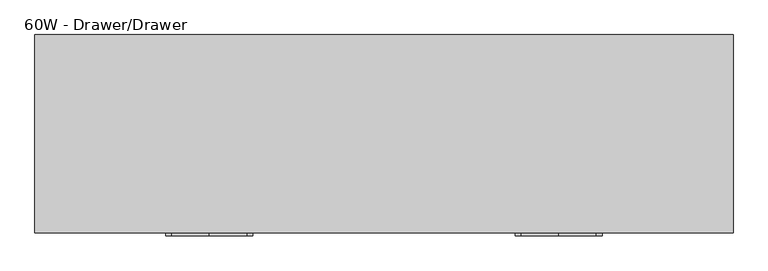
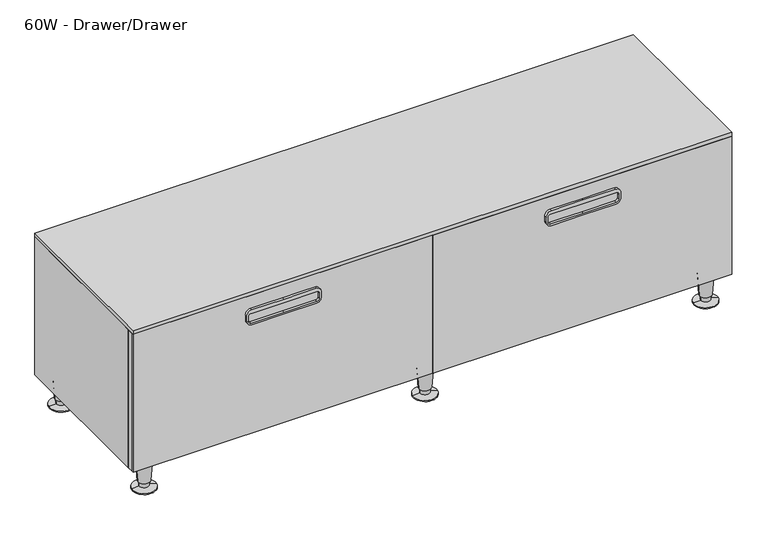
"""IFC4 building model written with IfcOpenShell, lengths in millimetres: furniture geometry, Steelcase - C Scape - Low Storage - 1 High - 60W and 72W : 60W - Drawer/Drawer."""

from ifc_helpers import new_model, si_unit, point, frame, frame_2d, origin, place, context, project, spatial, polyline, circle_curve, trimmed, segment, composite_curve, outline, extrude, faceted_brep, source, transform, mapped, element, save
from ifc_brep_helpers import plane_surface, cylinder_surface, revolved_surface, advanced_brep


def furniture_60w_drawer_drawer_cae58474(model_context):
    return source(origin(), model_context, "Body", "SolidModel", [
        extrude(outline(polyline([(447.0400097, 1217.93), (447.0400097, -305.435), (76.2, -305.435), (76.2, 1217.93), (447.0400097, 1217.93)]), holes=[polyline([(436.118, 1196.5917676), (92.7100024, 1196.5917676), (92.7100024, -283.4630912), (436.118, -283.4630912), (436.118, 1196.5917676)])]), frame((0.0, -426.7186111, 0.0), z_axis=(0.0, 1.0, 0.0), x_axis=(0.0, 0.0, 1.0)), (0.0, 0.0, 1.0), 14.3975487),
        faceted_brep([(-283.4630912, -412.3210624, 92.7100024), (434.0224874, -412.3210624, 92.7100024), (434.0224874, -9.525, 92.7100024), (-283.4630912, -9.525, 92.7100024), (479.1075126, -412.3210624, 92.7100024), (1196.5917676, -412.3210624, 92.7100024), (1196.5917676, -9.525, 92.7100024), (479.1075126, -9.525, 92.7100024), (-305.435, 0.0, 76.2), (1218.565, 0.0, 76.2), (1218.565, -412.3210624, 76.2), (-305.435, -412.3210624, 76.2), (-305.435, -412.3210624, 447.0400097), (-305.435, 0.0, 447.0400097), (1218.565, -412.3210624, 447.0400097), (1196.5917676, -412.3210624, 447.0400097), (-283.4630912, -412.3210624, 447.0400097), (1218.565, 0.0, 447.0400097), (-283.4630912, -9.525, 447.0400097), (434.0224874, -9.525, 447.0400097), (434.0224874, -415.2912402, 447.0400097), (447.6410976, -426.7186111, 447.0400097), (465.4889024, -426.7186111, 447.0400097), (479.1075126, -415.2912402, 447.0400097), (479.1075126, -9.525, 447.0400097), (1196.5917676, -9.525, 447.0400097), (434.0224874, -415.2912402, 92.7100024), (447.6410976, -426.7186111, 92.7100024), (465.4889024, -426.7186111, 92.7100024), (479.1075126, -415.2912402, 92.7100024)], [[[0, 1, 2, 3]], [[4, 5, 6, 7]], [[8, 9, 10, 11]], [[8, 11, 12, 13]], [[12, 11, 10, 14, 15, 5, 4, 1, 0, 16]], [[14, 10, 9, 17]], [[17, 9, 8, 13]], [[13, 12, 16, 18, 19, 20, 21, 22, 23, 24, 25, 15, 14, 17]], [[18, 16, 0, 3]], [[19, 18, 3, 2]], [[20, 19, 2, 1, 26]], [[21, 20, 26, 27]], [[23, 22, 28, 29]], [[24, 23, 29, 4, 7]], [[25, 24, 7, 6]], [[15, 25, 6, 5]], [[29, 28, 27, 26, 1, 4]], [[22, 21, 27, 28]]]),
        extrude(outline(composite_curve([segment(polyline([(412.7499879, 157.4804108), (412.7499879, 75.247655), (412.7499879, -6.9851007)]), True, "CONTINUOUS"), segment(trimmed(circle_curve(frame_2d((400.0499879, -6.9851007)), 12.7), [point((412.7499879, -6.9851007))], [point((400.0499879, -19.6851007))], False, "CARTESIAN"), True, "CONTINUOUS"), segment(polyline([(400.0499879, -19.6851007), (385.445017, -19.6851007)]), True, "CONTINUOUS"), segment(trimmed(circle_curve(frame_2d((385.445017, -6.9851007)), 12.7), [point((385.445017, -19.6851007))], [point((372.745017, -6.9851007))], False, "CARTESIAN"), True, "CONTINUOUS"), segment(polyline([(372.745017, -6.9851007), (372.745017, 75.247655), (372.745017, 157.4804108)]), True, "CONTINUOUS"), segment(trimmed(circle_curve(frame_2d((385.445017, 157.4804108)), 12.7), [point((372.745017, 157.4804108))], [point((385.445017, 170.1804108))], False, "CARTESIAN"), True, "CONTINUOUS"), segment(polyline([(385.445017, 170.1804108), (400.0499879, 170.1804108)]), True, "CONTINUOUS"), segment(trimmed(circle_curve(frame_2d((400.0499879, 157.4804108)), 12.7), [point((400.0499879, 170.1804108))], [point((412.7499879, 157.4804108))], False, "CARTESIAN"), True, "CONTINUOUS")], self_intersect=False), holes=[composite_curve([segment(polyline([(396.6210063, 165.3527985), (383.9209942, 165.3527985)]), True, "CONTINUOUS"), segment(trimmed(circle_curve(frame_2d((383.9209942, 159.0027985)), 6.35), [point((383.9209942, 165.3527985))], [point((377.5709942, 159.0027985))], True, "CARTESIAN"), True, "CONTINUOUS"), segment(polyline([(377.5709942, 159.0027985), (377.5709942, 75.247655), (377.5709942, -8.5074884)]), True, "CONTINUOUS"), segment(trimmed(circle_curve(frame_2d((383.9209942, -8.5074884)), 6.35), [point((377.5709942, -8.5074884))], [point((383.9209942, -14.8574884))], True, "CARTESIAN"), True, "CONTINUOUS"), segment(polyline([(383.9209942, -14.8574884), (396.6210063, -14.8574884)]), True, "CONTINUOUS"), segment(trimmed(circle_curve(frame_2d((396.6210063, -8.5074884)), 6.35), [point((396.6210063, -14.8574884))], [point((402.9710063, -8.5074884))], True, "CARTESIAN"), True, "CONTINUOUS"), segment(polyline([(402.9710063, -8.5074884), (402.9710063, 75.247655), (402.9710063, 159.0027985)]), True, "CONTINUOUS"), segment(trimmed(circle_curve(frame_2d((396.6210063, 159.0027985)), 6.35), [point((402.9710063, 159.0027985))], [point((396.6210063, 165.3527985))], True, "CARTESIAN"), True, "CONTINUOUS")], self_intersect=False)]), frame((0.0, -439.42, 0.0), z_axis=(0.0, 1.0, 0.0), x_axis=(0.0, 0.0, 1.0)), (0.0, 0.0, 1.0), 6.35),
        extrude(outline(polyline([(455.9303101, -426.7186111), (455.9303101, -433.07), (-305.435, -433.07), (-305.435, -426.7186111), (455.9303101, -426.7186111)])), frame((0.0, 0.0, 76.2), z_axis=(0.0, 0.0, 1.0), x_axis=(1.0, 0.0, 0.0)), (0.0, 0.0, 1.0), 370.8400097),
        advanced_brep(
        [(427.4539515, -29.9489775, 0.0), (485.6760485, -38.8569507, 0.0), (456.565, -34.4029641, 0.0), (427.4539515, -29.9489775, 2.5119506), (485.6760485, -38.8569507, 2.5119506), (444.802835, -32.6033544, 5.7545598), (468.327165, -36.2025738, 5.7545598), (444.1140655, -32.4979728, 19.05), (469.0159345, -36.3079555, 19.05), (441.6844786, -32.1262463, 19.05), (471.4455214, -36.6796819, 19.05), (437.7341305, -31.5218435, 76.2), (475.3958695, -37.2840847, 76.2), (456.565, -34.4029641, 76.2)],
        [
            (0, 1, circle_curve(frame((456.565, -34.4029641, 0.0), z_axis=(0.0, 0.0, -1.0), x_axis=(0.0, -1.0, 0.0)), 29.4498071)),
            (1, 2),
            (2, 0),
            (1, 0, circle_curve(frame((456.565, -34.4029641, 0.0), z_axis=(0.0, 0.0, -1.0), x_axis=(0.0, -1.0, 0.0)), 29.4498071)),
            (3, 4, circle_curve(frame((456.565, -34.4029641, 2.5119506), z_axis=(0.0, 0.0, -1.0), x_axis=(0.0, -1.0, 0.0)), 29.4498071)),
            (4, 1),
            (0, 3),
            (4, 3, circle_curve(frame((456.565, -34.4029641, 2.5119506), z_axis=(0.0, 0.0, -1.0), x_axis=(0.0, -1.0, 0.0)), 29.4498071)),
            (5, 6, circle_curve(frame((456.565, -34.4029641, 5.7545598), z_axis=(0.0, 0.0, -1.0), x_axis=(0.0, -1.0, 0.0)), 11.8990387)),
            (6, 4),
            (3, 5),
            (6, 5, circle_curve(frame((456.565, -34.4029641, 5.7545598), z_axis=(0.0, 0.0, -1.0), x_axis=(0.0, -1.0, 0.0)), 11.8990387)),
            (7, 8, circle_curve(frame((456.565, -34.4029641, 19.05), z_axis=(0.0, 0.0, -1.0), x_axis=(0.0, -1.0, 0.0)), 12.5958232)),
            (8, 6),
            (5, 7),
            (8, 7, circle_curve(frame((456.565, -34.4029641, 19.05), z_axis=(0.0, 0.0, -1.0), x_axis=(0.0, -1.0, 0.0)), 12.5958232)),
            (9, 10, circle_curve(frame((456.565, -34.4029641, 19.05), z_axis=(0.0, 0.0, -1.0), x_axis=(0.0, -1.0, 0.0)), 15.0536827)),
            (10, 8),
            (7, 9),
            (10, 9, circle_curve(frame((456.565, -34.4029641, 19.05), z_axis=(0.0, 0.0, -1.0), x_axis=(0.0, -1.0, 0.0)), 15.0536827)),
            (11, 12, circle_curve(frame((456.565, -34.4029641, 76.2), z_axis=(0.0, 0.0, -1.0), x_axis=(0.0, -1.0, 0.0)), 19.05)),
            (12, 10),
            (9, 11),
            (12, 11, circle_curve(frame((456.565, -34.4029641, 76.2), z_axis=(0.0, 0.0, -1.0), x_axis=(0.0, -1.0, 0.0)), 19.05)),
            (13, 12),
            (11, 13),
        ],
        [
            plane_surface(frame((456.565, -34.4029641, 0.0), z_axis=(0.0, 0.0, -1.0), x_axis=(0.0, -1.0, 0.0))),
            cylinder_surface(frame((456.565, -34.4029641, 25.4), z_axis=(0.0, 0.0, 1.0), x_axis=(0.0, -1.0, 0.0)), 29.4498071),
            revolved_surface(polyline([(456.565, -63.8527712, 2.5119506), (456.565, -46.3020028, 5.7545598)]), (456.565, -34.4029641, 25.4), (0.0, 0.0, 1.0)),
            revolved_surface(polyline([(456.565, -46.3020028, 5.7545598), (456.565, -46.9987873, 19.05)]), (456.565, -34.4029641, 25.4), (0.0, 0.0, 1.0)),
            plane_surface(frame((456.565, -34.4029641, 19.05), z_axis=(0.0, 0.0, -1.0), x_axis=(0.0, -1.0, 0.0))),
            revolved_surface(polyline([(456.565, -49.4566468, 19.05), (456.565, -53.4529641, 76.2)]), (456.565, -34.4029641, 25.4), (0.0, 0.0, 1.0)),
            plane_surface(frame((456.565, -34.4029641, 76.2), z_axis=(0.0, 0.0, 1.0), x_axis=(0.0, -1.0, 0.0))),
        ],
        [
            (0, [[1, 2, 3]]),
            (0, [[4, -3, -2]]),
            (1, [[5, 6, -1, 7]]),
            (1, [[8, -7, -4, -6]]),
            (2, [[9, 10, -5, 11]]),
            (2, [[12, -11, -8, -10]]),
            (3, [[13, 14, -9, 15]]),
            (3, [[16, -15, -12, -14]]),
            (4, [[17, 18, -13, 19]]),
            (4, [[20, -19, -16, -18]]),
            (5, [[21, 22, -17, 23]]),
            (5, [[24, -23, -20, -22]]),
            (6, [[25, -21, 26]]),
            (6, [[-26, -24, -25]]),
        ],
    ),
        advanced_brep(
        [(427.4539515, -395.5974102, 0.0), (485.6760485, -404.5053834, 0.0), (456.565, -400.0513968, 0.0), (427.4539515, -395.5974102, 2.5119506), (485.6760485, -404.5053834, 2.5119506), (444.802835, -398.2517871, 5.7545598), (468.327165, -401.8510065, 5.7545598), (444.1140655, -398.1464055, 19.05), (469.0159345, -401.9563882, 19.05), (441.6844786, -397.774679, 19.05), (471.4455214, -402.3281146, 19.05), (437.7341305, -397.1702762, 76.2), (475.3958695, -402.9325174, 76.2), (456.565, -400.0513968, 76.2)],
        [
            (0, 1, circle_curve(frame((456.565, -400.0513968, 0.0), z_axis=(0.0, 0.0, -1.0), x_axis=(0.0, -1.0, 0.0)), 29.4498071)),
            (1, 2),
            (2, 0),
            (1, 0, circle_curve(frame((456.565, -400.0513968, 0.0), z_axis=(0.0, 0.0, -1.0), x_axis=(0.0, -1.0, 0.0)), 29.4498071)),
            (3, 4, circle_curve(frame((456.565, -400.0513968, 2.5119506), z_axis=(0.0, 0.0, -1.0), x_axis=(0.0, -1.0, 0.0)), 29.4498071)),
            (4, 1),
            (0, 3),
            (4, 3, circle_curve(frame((456.565, -400.0513968, 2.5119506), z_axis=(0.0, 0.0, -1.0), x_axis=(0.0, -1.0, 0.0)), 29.4498071)),
            (5, 6, circle_curve(frame((456.565, -400.0513968, 5.7545598), z_axis=(0.0, 0.0, -1.0), x_axis=(0.0, -1.0, 0.0)), 11.8990387)),
            (6, 4),
            (3, 5),
            (6, 5, circle_curve(frame((456.565, -400.0513968, 5.7545598), z_axis=(0.0, 0.0, -1.0), x_axis=(0.0, -1.0, 0.0)), 11.8990387)),
            (7, 8, circle_curve(frame((456.565, -400.0513968, 19.05), z_axis=(0.0, 0.0, -1.0), x_axis=(0.0, -1.0, 0.0)), 12.5958232)),
            (8, 6),
            (5, 7),
            (8, 7, circle_curve(frame((456.565, -400.0513968, 19.05), z_axis=(0.0, 0.0, -1.0), x_axis=(0.0, -1.0, 0.0)), 12.5958232)),
            (9, 10, circle_curve(frame((456.565, -400.0513968, 19.05), z_axis=(0.0, 0.0, -1.0), x_axis=(0.0, -1.0, 0.0)), 15.0536827)),
            (10, 8),
            (7, 9),
            (10, 9, circle_curve(frame((456.565, -400.0513968, 19.05), z_axis=(0.0, 0.0, -1.0), x_axis=(0.0, -1.0, 0.0)), 15.0536827)),
            (11, 12, circle_curve(frame((456.565, -400.0513968, 76.2), z_axis=(0.0, 0.0, -1.0), x_axis=(0.0, -1.0, 0.0)), 19.05)),
            (12, 10),
            (9, 11),
            (12, 11, circle_curve(frame((456.565, -400.0513968, 76.2), z_axis=(0.0, 0.0, -1.0), x_axis=(0.0, -1.0, 0.0)), 19.05)),
            (13, 12),
            (11, 13),
        ],
        [
            plane_surface(frame((456.565, -400.0513968, 0.0), z_axis=(0.0, 0.0, -1.0), x_axis=(0.0, -1.0, 0.0))),
            cylinder_surface(frame((456.565, -400.0513968, 25.4), z_axis=(0.0, 0.0, 1.0), x_axis=(0.0, -1.0, 0.0)), 29.4498071),
            revolved_surface(polyline([(456.565, -429.5012039, 2.5119506), (456.565, -411.9504355, 5.7545598)]), (456.565, -400.0513968, 25.4), (0.0, 0.0, 1.0)),
            revolved_surface(polyline([(456.565, -411.9504355, 5.7545598), (456.565, -412.64722, 19.05)]), (456.565, -400.0513968, 25.4), (0.0, 0.0, 1.0)),
            plane_surface(frame((456.565, -400.0513968, 19.05), z_axis=(0.0, 0.0, -1.0), x_axis=(0.0, -1.0, 0.0))),
            revolved_surface(polyline([(456.565, -415.1050795, 19.05), (456.565, -419.1013968, 76.2)]), (456.565, -400.0513968, 25.4), (0.0, 0.0, 1.0)),
            plane_surface(frame((456.565, -400.0513968, 76.2), z_axis=(0.0, 0.0, 1.0), x_axis=(0.0, -1.0, 0.0))),
        ],
        [
            (0, [[1, 2, 3]]),
            (0, [[4, -3, -2]]),
            (1, [[5, 6, -1, 7]]),
            (1, [[8, -7, -4, -6]]),
            (2, [[9, 10, -5, 11]]),
            (2, [[12, -11, -8, -10]]),
            (3, [[13, 14, -9, 15]]),
            (3, [[16, -15, -12, -14]]),
            (4, [[17, 18, -13, 19]]),
            (4, [[20, -19, -16, -18]]),
            (5, [[21, 22, -17, 23]]),
            (5, [[24, -23, -20, -22]]),
            (6, [[25, -21, 26]]),
            (6, [[-26, -24, -25]]),
        ],
    ),
        extrude(outline(composite_curve([segment(trimmed(circle_curve(frame_2d((400.0499879, 755.3320892)), 12.7), [point((412.7499879, 755.3320892))], [point((400.0499879, 742.6320892))], False, "CARTESIAN"), True, "CONTINUOUS"), segment(polyline([(400.0499879, 742.6320892), (385.445017, 742.6320892)]), True, "CONTINUOUS"), segment(trimmed(circle_curve(frame_2d((385.445017, 755.3320892)), 12.7), [point((385.445017, 742.6320892))], [point((372.745017, 755.3320892))], False, "CARTESIAN"), True, "CONTINUOUS"), segment(polyline([(372.745017, 755.3320892), (372.745017, 837.564845), (372.745017, 919.7976007)]), True, "CONTINUOUS"), segment(trimmed(circle_curve(frame_2d((385.445017, 919.7976007)), 12.7), [point((372.745017, 919.7976007))], [point((385.445017, 932.4976007))], False, "CARTESIAN"), True, "CONTINUOUS"), segment(polyline([(385.445017, 932.4976007), (400.0499879, 932.4976007)]), True, "CONTINUOUS"), segment(trimmed(circle_curve(frame_2d((400.0499879, 919.7976007)), 12.7), [point((400.0499879, 932.4976007))], [point((412.7499879, 919.7976007))], False, "CARTESIAN"), True, "CONTINUOUS"), segment(polyline([(412.7499879, 919.7976007), (412.7499879, 837.564845), (412.7499879, 755.3320892)]), True, "CONTINUOUS")], self_intersect=False), holes=[composite_curve([segment(trimmed(circle_curve(frame_2d((396.6210063, 753.8097015)), 6.35), [point((396.6210063, 747.4597015))], [point((402.9710063, 753.8097015))], True, "CARTESIAN"), True, "CONTINUOUS"), segment(polyline([(402.9710063, 753.8097015), (402.9710063, 837.564845), (402.9710063, 921.3199884)]), True, "CONTINUOUS"), segment(trimmed(circle_curve(frame_2d((396.6210063, 921.3199884)), 6.35), [point((402.9710063, 921.3199884))], [point((396.6210063, 927.6699884))], True, "CARTESIAN"), True, "CONTINUOUS"), segment(polyline([(396.6210063, 927.6699884), (383.9209942, 927.6699884)]), True, "CONTINUOUS"), segment(trimmed(circle_curve(frame_2d((383.9209942, 921.3199884)), 6.35), [point((383.9209942, 927.6699884))], [point((377.5709942, 921.3199884))], True, "CARTESIAN"), True, "CONTINUOUS"), segment(polyline([(377.5709942, 921.3199884), (377.5709942, 837.564845), (377.5709942, 753.8097015)]), True, "CONTINUOUS"), segment(trimmed(circle_curve(frame_2d((383.9209942, 753.8097015)), 6.35), [point((377.5709942, 753.8097015))], [point((383.9209942, 747.4597015))], True, "CARTESIAN"), True, "CONTINUOUS"), segment(polyline([(383.9209942, 747.4597015), (396.6210063, 747.4597015)]), True, "CONTINUOUS")], self_intersect=False)]), frame((0.0, -439.42, 0.0), z_axis=(0.0, 1.0, 0.0), x_axis=(0.0, 0.0, 1.0)), (0.0, 0.0, 1.0), 6.35),
        advanced_brep(
        [(1171.2185874, -34.4029641, 76.2), (1190.0494568, -37.2840847, 76.2), (1152.3877179, -31.5218435, 76.2), (1186.0991088, -36.6796819, 19.05), (1156.3380659, -32.1262463, 19.05), (1183.6695219, -36.3079555, 19.05), (1158.7676529, -32.4979728, 19.05), (1182.9807524, -36.2025738, 5.7545598), (1159.4564224, -32.6033544, 5.7545598), (1200.3296359, -38.8569507, 2.5119506), (1142.1075389, -29.9489775, 2.5119506), (1200.3296359, -38.8569507, 0.0), (1142.1075389, -29.9489775, 0.0), (1171.2185874, -34.4029641, 0.0)],
        [
            (0, 1),
            (1, 2, circle_curve(frame((1171.2185874, -34.4029641, 76.2), z_axis=(0.0, 0.0, 1.0), x_axis=(0.0, -1.0, 0.0)), 19.05)),
            (2, 0),
            (2, 1, circle_curve(frame((1171.2185874, -34.4029641, 76.2), z_axis=(0.0, 0.0, 1.0), x_axis=(0.0, -1.0, 0.0)), 19.05)),
            (1, 3),
            (3, 4, circle_curve(frame((1171.2185874, -34.4029641, 19.05), z_axis=(0.0, 0.0, 1.0), x_axis=(0.0, -1.0, 0.0)), 15.0536827)),
            (4, 2),
            (4, 3, circle_curve(frame((1171.2185874, -34.4029641, 19.05), z_axis=(0.0, 0.0, 1.0), x_axis=(0.0, -1.0, 0.0)), 15.0536827)),
            (3, 5),
            (5, 6, circle_curve(frame((1171.2185874, -34.4029641, 19.05), z_axis=(0.0, 0.0, 1.0), x_axis=(0.0, -1.0, 0.0)), 12.5958232)),
            (6, 4),
            (6, 5, circle_curve(frame((1171.2185874, -34.4029641, 19.05), z_axis=(0.0, 0.0, 1.0), x_axis=(0.0, -1.0, 0.0)), 12.5958232)),
            (5, 7),
            (7, 8, circle_curve(frame((1171.2185874, -34.4029641, 5.7545598), z_axis=(0.0, 0.0, 1.0), x_axis=(0.0, -1.0, 0.0)), 11.8990387)),
            (8, 6),
            (8, 7, circle_curve(frame((1171.2185874, -34.4029641, 5.7545598), z_axis=(0.0, 0.0, 1.0), x_axis=(0.0, -1.0, 0.0)), 11.8990387)),
            (7, 9),
            (9, 10, circle_curve(frame((1171.2185874, -34.4029641, 2.5119506), z_axis=(0.0, 0.0, 1.0), x_axis=(0.0, -1.0, 0.0)), 29.4498071)),
            (10, 8),
            (10, 9, circle_curve(frame((1171.2185874, -34.4029641, 2.5119506), z_axis=(0.0, 0.0, 1.0), x_axis=(0.0, -1.0, 0.0)), 29.4498071)),
            (9, 11),
            (11, 12, circle_curve(frame((1171.2185874, -34.4029641, 0.0), z_axis=(0.0, 0.0, 1.0), x_axis=(0.0, -1.0, 0.0)), 29.4498071)),
            (12, 10),
            (12, 11, circle_curve(frame((1171.2185874, -34.4029641, 0.0), z_axis=(0.0, 0.0, 1.0), x_axis=(0.0, -1.0, 0.0)), 29.4498071)),
            (11, 13),
            (13, 12),
        ],
        [
            plane_surface(frame((1171.2185874, -34.4029641, 76.2), z_axis=(0.0, 0.0, 1.0), x_axis=(0.0, -1.0, 0.0))),
            revolved_surface(polyline([(1171.2185874, -49.4566468, 19.05), (1171.2185874, -53.4529641, 76.2)]), (1171.2185874, -34.4029641, 25.4), (0.0, 0.0, 1.0)),
            plane_surface(frame((1171.2185874, -34.4029641, 19.05), z_axis=(0.0, 0.0, -1.0), x_axis=(0.0, -1.0, 0.0))),
            revolved_surface(polyline([(1171.2185874, -46.3020028, 5.7545598), (1171.2185874, -46.9987873, 19.05)]), (1171.2185874, -34.4029641, 25.4), (0.0, 0.0, 1.0)),
            revolved_surface(polyline([(1171.2185874, -63.8527712, 2.5119506), (1171.2185874, -46.3020028, 5.7545598)]), (1171.2185874, -34.4029641, 25.4), (0.0, 0.0, 1.0)),
            cylinder_surface(frame((1171.2185874, -34.4029641, 25.4), z_axis=(0.0, 0.0, 1.0), x_axis=(0.0, -1.0, 0.0)), 29.4498071),
            plane_surface(frame((1171.2185874, -34.4029641, 0.0), z_axis=(0.0, 0.0, -1.0), x_axis=(0.0, -1.0, 0.0))),
        ],
        [
            (0, [[1, 2, 3]]),
            (0, [[-3, 4, -1]]),
            (1, [[-2, 5, 6, 7]]),
            (1, [[-4, -7, 8, -5]]),
            (2, [[-6, 9, 10, 11]]),
            (2, [[-8, -11, 12, -9]]),
            (3, [[-10, 13, 14, 15]]),
            (3, [[-12, -15, 16, -13]]),
            (4, [[-14, 17, 18, 19]]),
            (4, [[-16, -19, 20, -17]]),
            (5, [[-18, 21, 22, 23]]),
            (5, [[-20, -23, 24, -21]]),
            (6, [[-22, 25, 26]]),
            (6, [[-24, -26, -25]]),
        ],
    ),
        advanced_brep(
        [(1171.2185874, -400.0513968, 76.2), (1190.0494568, -402.9325174, 76.2), (1152.3877179, -397.1702762, 76.2), (1186.0991088, -402.3281146, 19.05), (1156.3380659, -397.774679, 19.05), (1183.6695219, -401.9563882, 19.05), (1158.7676529, -398.1464055, 19.05), (1182.9807524, -401.8510065, 5.7545598), (1159.4564224, -398.2517871, 5.7545598), (1200.3296359, -404.5053834, 2.5119506), (1142.1075389, -395.5974102, 2.5119506), (1200.3296359, -404.5053834, 0.0), (1142.1075389, -395.5974102, 0.0), (1171.2185874, -400.0513968, 0.0)],
        [
            (0, 1),
            (1, 2, circle_curve(frame((1171.2185874, -400.0513968, 76.2), z_axis=(0.0, 0.0, 1.0), x_axis=(0.0, -1.0, 0.0)), 19.05)),
            (2, 0),
            (2, 1, circle_curve(frame((1171.2185874, -400.0513968, 76.2), z_axis=(0.0, 0.0, 1.0), x_axis=(0.0, -1.0, 0.0)), 19.05)),
            (1, 3),
            (3, 4, circle_curve(frame((1171.2185874, -400.0513968, 19.05), z_axis=(0.0, 0.0, 1.0), x_axis=(0.0, -1.0, 0.0)), 15.0536827)),
            (4, 2),
            (4, 3, circle_curve(frame((1171.2185874, -400.0513968, 19.05), z_axis=(0.0, 0.0, 1.0), x_axis=(0.0, -1.0, 0.0)), 15.0536827)),
            (3, 5),
            (5, 6, circle_curve(frame((1171.2185874, -400.0513968, 19.05), z_axis=(0.0, 0.0, 1.0), x_axis=(0.0, -1.0, 0.0)), 12.5958232)),
            (6, 4),
            (6, 5, circle_curve(frame((1171.2185874, -400.0513968, 19.05), z_axis=(0.0, 0.0, 1.0), x_axis=(0.0, -1.0, 0.0)), 12.5958232)),
            (5, 7),
            (7, 8, circle_curve(frame((1171.2185874, -400.0513968, 5.7545598), z_axis=(0.0, 0.0, 1.0), x_axis=(0.0, -1.0, 0.0)), 11.8990387)),
            (8, 6),
            (8, 7, circle_curve(frame((1171.2185874, -400.0513968, 5.7545598), z_axis=(0.0, 0.0, 1.0), x_axis=(0.0, -1.0, 0.0)), 11.8990387)),
            (7, 9),
            (9, 10, circle_curve(frame((1171.2185874, -400.0513968, 2.5119506), z_axis=(0.0, 0.0, 1.0), x_axis=(0.0, -1.0, 0.0)), 29.4498071)),
            (10, 8),
            (10, 9, circle_curve(frame((1171.2185874, -400.0513968, 2.5119506), z_axis=(0.0, 0.0, 1.0), x_axis=(0.0, -1.0, 0.0)), 29.4498071)),
            (9, 11),
            (11, 12, circle_curve(frame((1171.2185874, -400.0513968, 0.0), z_axis=(0.0, 0.0, 1.0), x_axis=(0.0, -1.0, 0.0)), 29.4498071)),
            (12, 10),
            (12, 11, circle_curve(frame((1171.2185874, -400.0513968, 0.0), z_axis=(0.0, 0.0, 1.0), x_axis=(0.0, -1.0, 0.0)), 29.4498071)),
            (11, 13),
            (13, 12),
        ],
        [
            plane_surface(frame((1171.2185874, -400.0513968, 76.2), z_axis=(0.0, 0.0, 1.0), x_axis=(0.0, -1.0, 0.0))),
            revolved_surface(polyline([(1171.2185874, -415.1050795, 19.05), (1171.2185874, -419.1013968, 76.2)]), (1171.2185874, -400.0513968, 25.4), (0.0, 0.0, 1.0)),
            plane_surface(frame((1171.2185874, -400.0513968, 19.05), z_axis=(0.0, 0.0, -1.0), x_axis=(0.0, -1.0, 0.0))),
            revolved_surface(polyline([(1171.2185874, -411.9504355, 5.7545598), (1171.2185874, -412.64722, 19.05)]), (1171.2185874, -400.0513968, 25.4), (0.0, 0.0, 1.0)),
            revolved_surface(polyline([(1171.2185874, -429.5012039, 2.5119506), (1171.2185874, -411.9504355, 5.7545598)]), (1171.2185874, -400.0513968, 25.4), (0.0, 0.0, 1.0)),
            cylinder_surface(frame((1171.2185874, -400.0513968, 25.4), z_axis=(0.0, 0.0, 1.0), x_axis=(0.0, -1.0, 0.0)), 29.4498071),
            plane_surface(frame((1171.2185874, -400.0513968, 0.0), z_axis=(0.0, 0.0, -1.0), x_axis=(0.0, -1.0, 0.0))),
        ],
        [
            (0, [[1, 2, 3]]),
            (0, [[-3, 4, -1]]),
            (1, [[-2, 5, 6, 7]]),
            (1, [[-4, -7, 8, -5]]),
            (2, [[-6, 9, 10, 11]]),
            (2, [[-8, -11, 12, -9]]),
            (3, [[-10, 13, 14, 15]]),
            (3, [[-12, -15, 16, -13]]),
            (4, [[-14, 17, 18, 19]]),
            (4, [[-16, -19, 20, -17]]),
            (5, [[-18, 21, 22, 23]]),
            (5, [[-20, -23, 24, -21]]),
            (6, [[-22, 25, 26]]),
            (6, [[-24, -26, -25]]),
        ],
    ),
        advanced_brep(
        [(-287.8113721, -395.5974102, 0.0), (-229.5892752, -404.5053834, 0.0), (-258.7003237, -400.0513968, 0.0), (-287.8113721, -395.5974102, 2.5119506), (-229.5892752, -404.5053834, 2.5119506), (-270.4624887, -398.2517871, 5.7545598), (-246.9381586, -401.8510065, 5.7545598), (-271.1512581, -398.1464055, 19.05), (-246.2493892, -401.9563882, 19.05), (-273.5808451, -397.774679, 19.05), (-243.8198022, -402.3281146, 19.05), (-277.5311931, -397.1702762, 76.2), (-239.8694542, -402.9325174, 76.2), (-258.7003237, -400.0513968, 76.2)],
        [
            (0, 1, circle_curve(frame((-258.7003237, -400.0513968, 0.0), z_axis=(0.0, 0.0, -1.0), x_axis=(0.0, -1.0, 0.0)), 29.4498071)),
            (1, 2),
            (2, 0),
            (1, 0, circle_curve(frame((-258.7003237, -400.0513968, 0.0), z_axis=(0.0, 0.0, -1.0), x_axis=(0.0, -1.0, 0.0)), 29.4498071)),
            (3, 4, circle_curve(frame((-258.7003237, -400.0513968, 2.5119506), z_axis=(0.0, 0.0, -1.0), x_axis=(0.0, -1.0, 0.0)), 29.4498071)),
            (4, 1),
            (0, 3),
            (4, 3, circle_curve(frame((-258.7003237, -400.0513968, 2.5119506), z_axis=(0.0, 0.0, -1.0), x_axis=(0.0, -1.0, 0.0)), 29.4498071)),
            (5, 6, circle_curve(frame((-258.7003237, -400.0513968, 5.7545598), z_axis=(0.0, 0.0, -1.0), x_axis=(0.0, -1.0, 0.0)), 11.8990387)),
            (6, 4),
            (3, 5),
            (6, 5, circle_curve(frame((-258.7003237, -400.0513968, 5.7545598), z_axis=(0.0, 0.0, -1.0), x_axis=(0.0, -1.0, 0.0)), 11.8990387)),
            (7, 8, circle_curve(frame((-258.7003237, -400.0513968, 19.05), z_axis=(0.0, 0.0, -1.0), x_axis=(0.0, -1.0, 0.0)), 12.5958232)),
            (8, 6),
            (5, 7),
            (8, 7, circle_curve(frame((-258.7003237, -400.0513968, 19.05), z_axis=(0.0, 0.0, -1.0), x_axis=(0.0, -1.0, 0.0)), 12.5958232)),
            (9, 10, circle_curve(frame((-258.7003237, -400.0513968, 19.05), z_axis=(0.0, 0.0, -1.0), x_axis=(0.0, -1.0, 0.0)), 15.0536827)),
            (10, 8),
            (7, 9),
            (10, 9, circle_curve(frame((-258.7003237, -400.0513968, 19.05), z_axis=(0.0, 0.0, -1.0), x_axis=(0.0, -1.0, 0.0)), 15.0536827)),
            (11, 12, circle_curve(frame((-258.7003237, -400.0513968, 76.2), z_axis=(0.0, 0.0, -1.0), x_axis=(0.0, -1.0, 0.0)), 19.05)),
            (12, 10),
            (9, 11),
            (12, 11, circle_curve(frame((-258.7003237, -400.0513968, 76.2), z_axis=(0.0, 0.0, -1.0), x_axis=(0.0, -1.0, 0.0)), 19.05)),
            (13, 12),
            (11, 13),
        ],
        [
            plane_surface(frame((-258.7003237, -400.0513968, 0.0), z_axis=(0.0, 0.0, -1.0), x_axis=(0.0, -1.0, 0.0))),
            cylinder_surface(frame((-258.7003237, -400.0513968, 25.4), z_axis=(0.0, 0.0, 1.0), x_axis=(0.0, -1.0, 0.0)), 29.4498071),
            revolved_surface(polyline([(-258.7003237, -429.5012039, 2.5119506), (-258.7003237, -411.9504355, 5.7545598)]), (-258.7003237, -400.0513968, 25.4), (0.0, 0.0, 1.0)),
            revolved_surface(polyline([(-258.7003237, -411.9504355, 5.7545598), (-258.7003237, -412.64722, 19.05)]), (-258.7003237, -400.0513968, 25.4), (0.0, 0.0, 1.0)),
            plane_surface(frame((-258.7003237, -400.0513968, 19.05), z_axis=(0.0, 0.0, -1.0), x_axis=(0.0, -1.0, 0.0))),
            revolved_surface(polyline([(-258.7003237, -415.1050795, 19.05), (-258.7003237, -419.1013968, 76.2)]), (-258.7003237, -400.0513968, 25.4), (0.0, 0.0, 1.0)),
            plane_surface(frame((-258.7003237, -400.0513968, 76.2), z_axis=(0.0, 0.0, 1.0), x_axis=(0.0, -1.0, 0.0))),
        ],
        [
            (0, [[1, 2, 3]]),
            (0, [[4, -3, -2]]),
            (1, [[5, 6, -1, 7]]),
            (1, [[8, -7, -4, -6]]),
            (2, [[9, 10, -5, 11]]),
            (2, [[12, -11, -8, -10]]),
            (3, [[13, 14, -9, 15]]),
            (3, [[16, -15, -12, -14]]),
            (4, [[17, 18, -13, 19]]),
            (4, [[20, -19, -16, -18]]),
            (5, [[21, 22, -17, 23]]),
            (5, [[24, -23, -20, -22]]),
            (6, [[25, -21, 26]]),
            (6, [[-26, -24, -25]]),
        ],
    ),
        advanced_brep(
        [(-287.8113721, -29.9489775, 0.0), (-229.5892752, -38.8569507, 0.0), (-258.7003237, -34.4029641, 0.0), (-287.8113721, -29.9489775, 2.5119506), (-229.5892752, -38.8569507, 2.5119506), (-270.4624887, -32.6033544, 5.7545598), (-246.9381586, -36.2025738, 5.7545598), (-271.1512581, -32.4979728, 19.05), (-246.2493892, -36.3079555, 19.05), (-273.5808451, -32.1262463, 19.05), (-243.8198022, -36.6796819, 19.05), (-277.5311931, -31.5218435, 76.2), (-239.8694542, -37.2840847, 76.2), (-258.7003237, -34.4029641, 76.2)],
        [
            (0, 1, circle_curve(frame((-258.7003237, -34.4029641, 0.0), z_axis=(0.0, 0.0, -1.0), x_axis=(0.0, -1.0, 0.0)), 29.4498071)),
            (1, 2),
            (2, 0),
            (1, 0, circle_curve(frame((-258.7003237, -34.4029641, 0.0), z_axis=(0.0, 0.0, -1.0), x_axis=(0.0, -1.0, 0.0)), 29.4498071)),
            (3, 4, circle_curve(frame((-258.7003237, -34.4029641, 2.5119506), z_axis=(0.0, 0.0, -1.0), x_axis=(0.0, -1.0, 0.0)), 29.4498071)),
            (4, 1),
            (0, 3),
            (4, 3, circle_curve(frame((-258.7003237, -34.4029641, 2.5119506), z_axis=(0.0, 0.0, -1.0), x_axis=(0.0, -1.0, 0.0)), 29.4498071)),
            (5, 6, circle_curve(frame((-258.7003237, -34.4029641, 5.7545598), z_axis=(0.0, 0.0, -1.0), x_axis=(0.0, -1.0, 0.0)), 11.8990387)),
            (6, 4),
            (3, 5),
            (6, 5, circle_curve(frame((-258.7003237, -34.4029641, 5.7545598), z_axis=(0.0, 0.0, -1.0), x_axis=(0.0, -1.0, 0.0)), 11.8990387)),
            (7, 8, circle_curve(frame((-258.7003237, -34.4029641, 19.05), z_axis=(0.0, 0.0, -1.0), x_axis=(0.0, -1.0, 0.0)), 12.5958232)),
            (8, 6),
            (5, 7),
            (8, 7, circle_curve(frame((-258.7003237, -34.4029641, 19.05), z_axis=(0.0, 0.0, -1.0), x_axis=(0.0, -1.0, 0.0)), 12.5958232)),
            (9, 10, circle_curve(frame((-258.7003237, -34.4029641, 19.05), z_axis=(0.0, 0.0, -1.0), x_axis=(0.0, -1.0, 0.0)), 15.0536827)),
            (10, 8),
            (7, 9),
            (10, 9, circle_curve(frame((-258.7003237, -34.4029641, 19.05), z_axis=(0.0, 0.0, -1.0), x_axis=(0.0, -1.0, 0.0)), 15.0536827)),
            (11, 12, circle_curve(frame((-258.7003237, -34.4029641, 76.2), z_axis=(0.0, 0.0, -1.0), x_axis=(0.0, -1.0, 0.0)), 19.05)),
            (12, 10),
            (9, 11),
            (12, 11, circle_curve(frame((-258.7003237, -34.4029641, 76.2), z_axis=(0.0, 0.0, -1.0), x_axis=(0.0, -1.0, 0.0)), 19.05)),
            (13, 12),
            (11, 13),
        ],
        [
            plane_surface(frame((-258.7003237, -34.4029641, 0.0), z_axis=(0.0, 0.0, -1.0), x_axis=(0.0, -1.0, 0.0))),
            cylinder_surface(frame((-258.7003237, -34.4029641, 25.4), z_axis=(0.0, 0.0, 1.0), x_axis=(0.0, -1.0, 0.0)), 29.4498071),
            revolved_surface(polyline([(-258.7003237, -63.8527712, 2.5119506), (-258.7003237, -46.3020028, 5.7545598)]), (-258.7003237, -34.4029641, 25.4), (0.0, 0.0, 1.0)),
            revolved_surface(polyline([(-258.7003237, -46.3020028, 5.7545598), (-258.7003237, -46.9987873, 19.05)]), (-258.7003237, -34.4029641, 25.4), (0.0, 0.0, 1.0)),
            plane_surface(frame((-258.7003237, -34.4029641, 19.05), z_axis=(0.0, 0.0, -1.0), x_axis=(0.0, -1.0, 0.0))),
            revolved_surface(polyline([(-258.7003237, -49.4566468, 19.05), (-258.7003237, -53.4529641, 76.2)]), (-258.7003237, -34.4029641, 25.4), (0.0, 0.0, 1.0)),
            plane_surface(frame((-258.7003237, -34.4029641, 76.2), z_axis=(0.0, 0.0, 1.0), x_axis=(0.0, -1.0, 0.0))),
        ],
        [
            (0, [[1, 2, 3]]),
            (0, [[4, -3, -2]]),
            (1, [[5, 6, -1, 7]]),
            (1, [[8, -7, -4, -6]]),
            (2, [[9, 10, -5, 11]]),
            (2, [[12, -11, -8, -10]]),
            (3, [[13, 14, -9, 15]]),
            (3, [[16, -15, -12, -14]]),
            (4, [[17, 18, -13, 19]]),
            (4, [[20, -19, -16, -18]]),
            (5, [[21, 22, -17, 23]]),
            (5, [[24, -23, -20, -22]]),
            (6, [[25, -21, 26]]),
            (6, [[-26, -24, -25]]),
        ],
    ),
        extrude(outline(polyline([(457.1996899, -426.7186111), (1218.565, -426.7186111), (1218.565, -433.07), (457.1996899, -433.07), (457.1996899, -426.7186111)])), frame((0.0, 0.0, 76.2), z_axis=(0.0, 0.0, 1.0), x_axis=(1.0, 0.0, 0.0)), (0.0, 0.0, 1.0), 370.8400097),
        extrude(outline(polyline([(-305.435, 0.0), (1218.565, 0.0), (1218.565, -433.07), (-305.435, -433.07), (-305.435, 0.0)])), frame((0.0, 0.0, 447.0400097), z_axis=(0.0, 0.0, 1.0), x_axis=(1.0, 0.0, 0.0)), (0.0, 0.0, 1.0), 10.1599903),
    ])


if __name__ == "__main__":
    model = new_model("IFC4")
    model_context = context("Model", 3, world=origin())
    ifc_project = project(units=[si_unit("LENGTHUNIT", "METRE", prefix="MILLI")], contexts=[model_context])
    site = spatial("IfcSite", under=ifc_project)
    building = spatial("IfcBuilding", under=site)
    placement = place(None, origin())
    furniture_60w_drawer_drawer_shape = furniture_60w_drawer_drawer_cae58474(model_context)
    element("IfcFurniture", 1, ObjectType="Steelcase - C Scape - Low Storage - 1 High - 60W and 72W : 60W - Drawer/Drawer", at=placement, inside=building, context=model_context, shape_type="MappedRepresentation", body=[
        mapped(furniture_60w_drawer_drawer_shape, transform((0.0, 0.0, 0.0), x_axis=(1.0, 0.0, 0.0), y_axis=(0.0, 1.0, 0.0), z_axis=(0.0, 0.0, 1.0))),
    ])
    save(model, "model.ifc")
